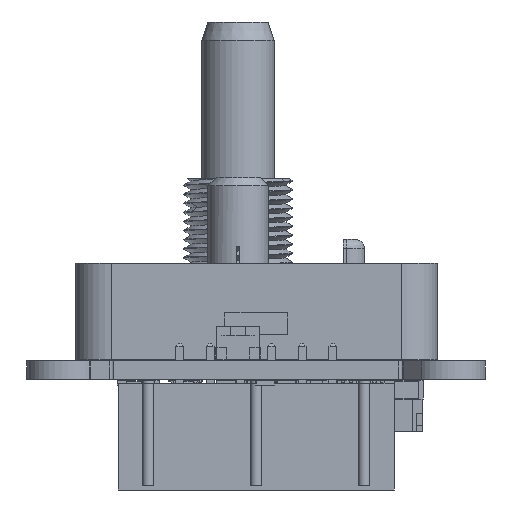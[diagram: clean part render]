
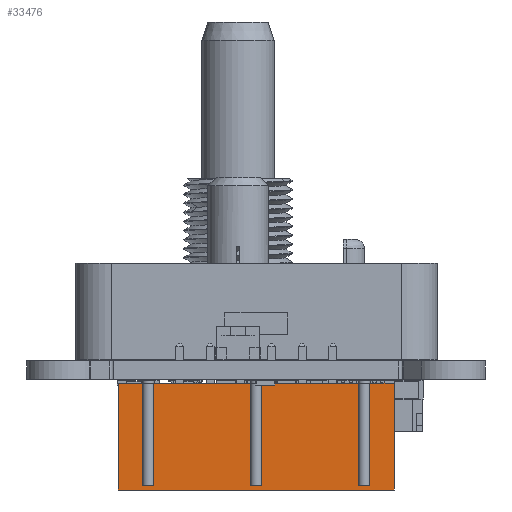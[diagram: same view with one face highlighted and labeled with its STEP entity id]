
A CAD part, left-side view. The second image highlights one B-rep face of the part: STEP entity #33476.
In plain terms, the highlighted planar face has unit normal (-1, 0, 0) as drawn and (1, 0, 0) by its records, which use the part's own axes.
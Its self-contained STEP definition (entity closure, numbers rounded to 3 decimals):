
#32570 = EDGE_CURVE('',#32571,#32573,#32575,.T.);
#32571 = VERTEX_POINT('',#32572);
#32572 = CARTESIAN_POINT('',(5.695,5.1,0.25));
#32573 = VERTEX_POINT('',#32574);
#32574 = CARTESIAN_POINT('',(5.695,5.1,9.1));
#32575 = LINE('',#32576,#32577);
#32576 = CARTESIAN_POINT('',(5.695,5.1,0.25));
#32577 = VECTOR('',#32578,1.);
#32578 = DIRECTION('',(0.,0.,1.));
#32635 = VERTEX_POINT('',#32636);
#32636 = CARTESIAN_POINT('',(5.695,-17.8,9.1));
#32642 = EDGE_CURVE('',#32635,#32573,#32643,.T.);
#32643 = LINE('',#32644,#32645);
#32644 = CARTESIAN_POINT('',(5.695,-17.8,9.1));
#32645 = VECTOR('',#32646,1.);
#32646 = DIRECTION('',(0.,1.,0.));
#32843 = VERTEX_POINT('',#32844);
#32844 = CARTESIAN_POINT('',(5.695,-17.8,0.25));
#32850 = EDGE_CURVE('',#32843,#32635,#32851,.T.);
#32851 = LINE('',#32852,#32853);
#32852 = CARTESIAN_POINT('',(5.695,-17.8,0.25));
#32853 = VECTOR('',#32854,1.);
#32854 = DIRECTION('',(0.,0.,1.));
#32890 = EDGE_CURVE('',#32891,#32571,#32893,.T.);
#32891 = VERTEX_POINT('',#32892);
#32892 = CARTESIAN_POINT('',(5.695,3.033,0.25));
#32893 = LINE('',#32894,#32895);
#32894 = CARTESIAN_POINT('',(5.695,-17.8,0.25));
#32895 = VECTOR('',#32896,1.);
#32896 = DIRECTION('',(0.,1.,0.));
#32908 = VERTEX_POINT('',#32909);
#32909 = CARTESIAN_POINT('',(5.695,2.167,0.25));
#32916 = EDGE_CURVE('',#32917,#32908,#32919,.T.);
#32917 = VERTEX_POINT('',#32918);
#32918 = CARTESIAN_POINT('',(5.695,-5.917,0.25));
#32919 = LINE('',#32920,#32921);
#32920 = CARTESIAN_POINT('',(5.695,-17.8,0.25));
#32921 = VECTOR('',#32922,1.);
#32922 = DIRECTION('',(0.,1.,0.));
#32934 = VERTEX_POINT('',#32935);
#32935 = CARTESIAN_POINT('',(5.695,-6.783,0.25));
#32942 = EDGE_CURVE('',#32943,#32934,#32945,.T.);
#32943 = VERTEX_POINT('',#32944);
#32944 = CARTESIAN_POINT('',(5.695,-14.867,0.25));
#32945 = LINE('',#32946,#32947);
#32946 = CARTESIAN_POINT('',(5.695,-17.8,0.25));
#32947 = VECTOR('',#32948,1.);
#32948 = DIRECTION('',(0.,1.,0.));
#32960 = VERTEX_POINT('',#32961);
#32961 = CARTESIAN_POINT('',(5.695,-15.733,0.25));
#32968 = EDGE_CURVE('',#32843,#32960,#32969,.T.);
#32969 = LINE('',#32970,#32971);
#32970 = CARTESIAN_POINT('',(5.695,-17.8,0.25));
#32971 = VECTOR('',#32972,1.);
#32972 = DIRECTION('',(0.,1.,0.));
#33476 = ADVANCED_FACE('',(#33477),#33552,.T.);
#33477 = FACE_BOUND('',#33478,.T.);
#33478 = EDGE_LOOP('',(#33479,#33480,#33481,#33489,#33497,#33503,#33504,
    #33512,#33520,#33526,#33527,#33535,#33543,#33549,#33550,#33551));
#33479 = ORIENTED_EDGE('',*,*,#32850,.F.);
#33480 = ORIENTED_EDGE('',*,*,#32968,.T.);
#33481 = ORIENTED_EDGE('',*,*,#33482,.F.);
#33482 = EDGE_CURVE('',#33483,#32960,#33485,.T.);
#33483 = VERTEX_POINT('',#33484);
#33484 = CARTESIAN_POINT('',(5.695,-15.733,8.75));
#33485 = LINE('',#33486,#33487);
#33486 = CARTESIAN_POINT('',(5.695,-15.733,0.25));
#33487 = VECTOR('',#33488,1.);
#33488 = DIRECTION('',(-0.,-0.,-1.));
#33489 = ORIENTED_EDGE('',*,*,#33490,.F.);
#33490 = EDGE_CURVE('',#33491,#33483,#33493,.T.);
#33491 = VERTEX_POINT('',#33492);
#33492 = CARTESIAN_POINT('',(5.695,-14.867,8.75));
#33493 = LINE('',#33494,#33495);
#33494 = CARTESIAN_POINT('',(5.695,-10.825,8.75));
#33495 = VECTOR('',#33496,1.);
#33496 = DIRECTION('',(0.,-1.,0.));
#33497 = ORIENTED_EDGE('',*,*,#33498,.T.);
#33498 = EDGE_CURVE('',#33491,#32943,#33499,.T.);
#33499 = LINE('',#33500,#33501);
#33500 = CARTESIAN_POINT('',(5.695,-14.867,0.25));
#33501 = VECTOR('',#33502,1.);
#33502 = DIRECTION('',(-0.,-0.,-1.));
#33503 = ORIENTED_EDGE('',*,*,#32942,.T.);
#33504 = ORIENTED_EDGE('',*,*,#33505,.F.);
#33505 = EDGE_CURVE('',#33506,#32934,#33508,.T.);
#33506 = VERTEX_POINT('',#33507);
#33507 = CARTESIAN_POINT('',(5.695,-6.783,8.75));
#33508 = LINE('',#33509,#33510);
#33509 = CARTESIAN_POINT('',(5.695,-6.783,0.25));
#33510 = VECTOR('',#33511,1.);
#33511 = DIRECTION('',(-0.,-0.,-1.));
#33512 = ORIENTED_EDGE('',*,*,#33513,.F.);
#33513 = EDGE_CURVE('',#33514,#33506,#33516,.T.);
#33514 = VERTEX_POINT('',#33515);
#33515 = CARTESIAN_POINT('',(5.695,-5.917,8.75));
#33516 = LINE('',#33517,#33518);
#33517 = CARTESIAN_POINT('',(5.695,-6.35,8.75));
#33518 = VECTOR('',#33519,1.);
#33519 = DIRECTION('',(0.,-1.,0.));
#33520 = ORIENTED_EDGE('',*,*,#33521,.T.);
#33521 = EDGE_CURVE('',#33514,#32917,#33522,.T.);
#33522 = LINE('',#33523,#33524);
#33523 = CARTESIAN_POINT('',(5.695,-5.917,0.25));
#33524 = VECTOR('',#33525,1.);
#33525 = DIRECTION('',(-0.,-0.,-1.));
#33526 = ORIENTED_EDGE('',*,*,#32916,.T.);
#33527 = ORIENTED_EDGE('',*,*,#33528,.F.);
#33528 = EDGE_CURVE('',#33529,#32908,#33531,.T.);
#33529 = VERTEX_POINT('',#33530);
#33530 = CARTESIAN_POINT('',(5.695,2.167,8.75));
#33531 = LINE('',#33532,#33533);
#33532 = CARTESIAN_POINT('',(5.695,2.167,0.25));
#33533 = VECTOR('',#33534,1.);
#33534 = DIRECTION('',(-0.,-0.,-1.));
#33535 = ORIENTED_EDGE('',*,*,#33536,.F.);
#33536 = EDGE_CURVE('',#33537,#33529,#33539,.T.);
#33537 = VERTEX_POINT('',#33538);
#33538 = CARTESIAN_POINT('',(5.695,3.033,8.75));
#33539 = LINE('',#33540,#33541);
#33540 = CARTESIAN_POINT('',(5.695,-1.875,8.75));
#33541 = VECTOR('',#33542,1.);
#33542 = DIRECTION('',(0.,-1.,0.));
#33543 = ORIENTED_EDGE('',*,*,#33544,.T.);
#33544 = EDGE_CURVE('',#33537,#32891,#33545,.T.);
#33545 = LINE('',#33546,#33547);
#33546 = CARTESIAN_POINT('',(5.695,3.033,0.25));
#33547 = VECTOR('',#33548,1.);
#33548 = DIRECTION('',(-0.,-0.,-1.));
#33549 = ORIENTED_EDGE('',*,*,#32890,.T.);
#33550 = ORIENTED_EDGE('',*,*,#32570,.T.);
#33551 = ORIENTED_EDGE('',*,*,#32642,.F.);
#33552 = PLANE('',#33553);
#33553 = AXIS2_PLACEMENT_3D('',#33554,#33555,#33556);
#33554 = CARTESIAN_POINT('',(5.695,-6.35,4.675));
#33555 = DIRECTION('',(1.,0.,0.));
#33556 = DIRECTION('',(0.,0.,1.));
